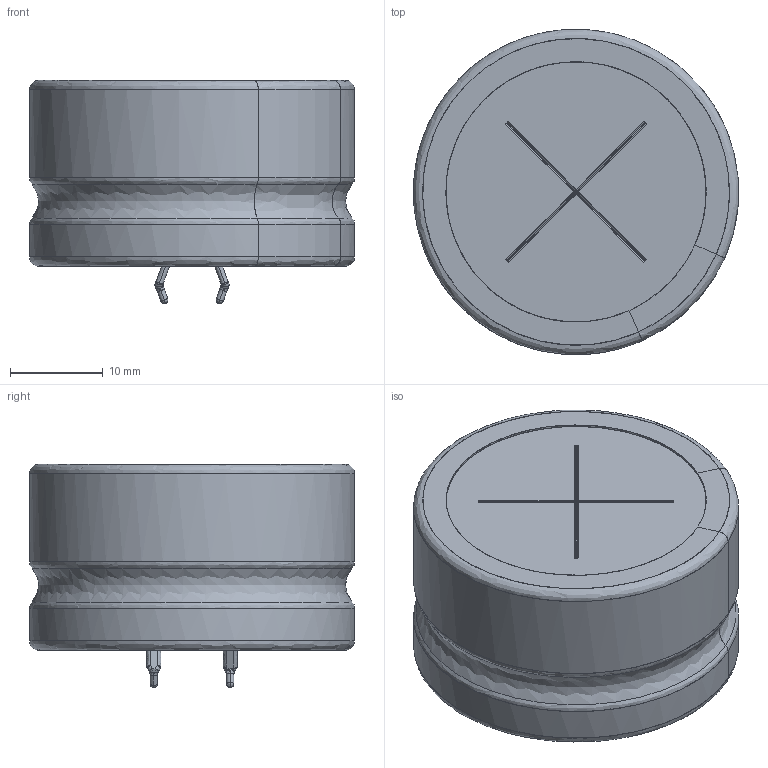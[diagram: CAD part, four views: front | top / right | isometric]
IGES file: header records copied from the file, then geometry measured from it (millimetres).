
Start section: JAMA-IS VERSION  1.0
Bounding box: 34.97 x 34.97 x 24.02 mm (x, y, z)
Surface area: 9791.3 mm2 (no closed solid volume)
Topology: 0 solids, 0 shells, 208 faces, 2354 edges, 2318 vertices
Faces by surface type: bspline 208
